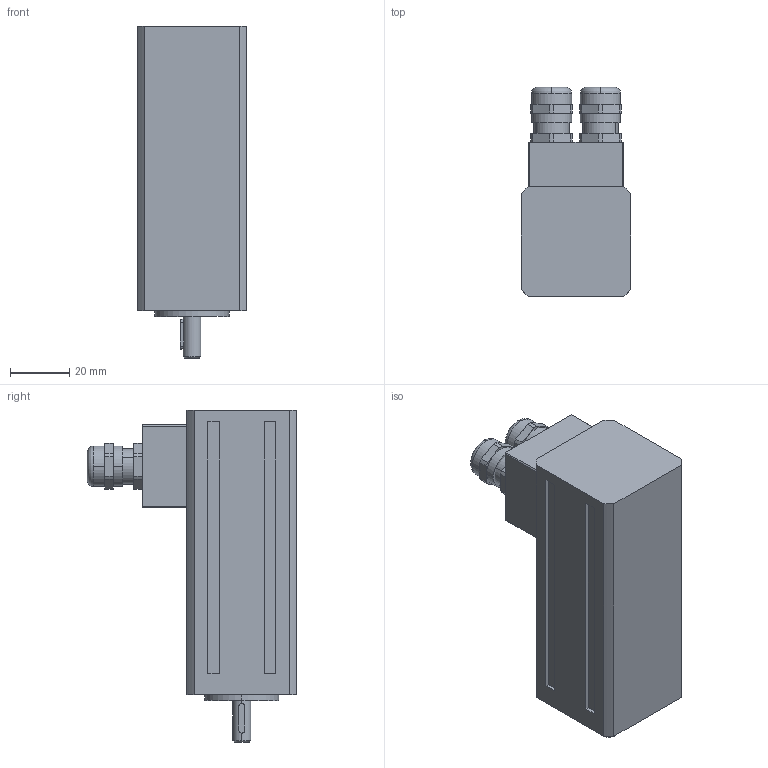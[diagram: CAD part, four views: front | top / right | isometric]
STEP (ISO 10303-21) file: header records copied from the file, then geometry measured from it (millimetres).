
FILE_DESCRIPTION(('STEP AP203'),'2;1');
FILE_NAME('MT1-0020.stp','2006-08-28T19:51:51',(''),(''),'2005.2.102','THINKDESIGN','');
FILE_SCHEMA(('CONFIG_CONTROL_DESIGN'));
Length unit declared in the file: millimetre
Bounding box: 37 x 70.6 x 112 mm (x, y, z)
Volume: 145089.5 mm3; surface area: 25210.7 mm2
Topology: 5 solids, 5 shells, 192 faces, 461 edges, 298 vertices
Faces by surface type: plane 82, cylinder 66, bspline 44
Entity records: 5950 total; most frequent: CARTESIAN_POINT 1399, DIRECTION 939, ORIENTED_EDGE 906, EDGE_CURVE 453, AXIS2_PLACEMENT_3D 342, VERTEX_POINT 298, VECTOR 255, LINE 255
